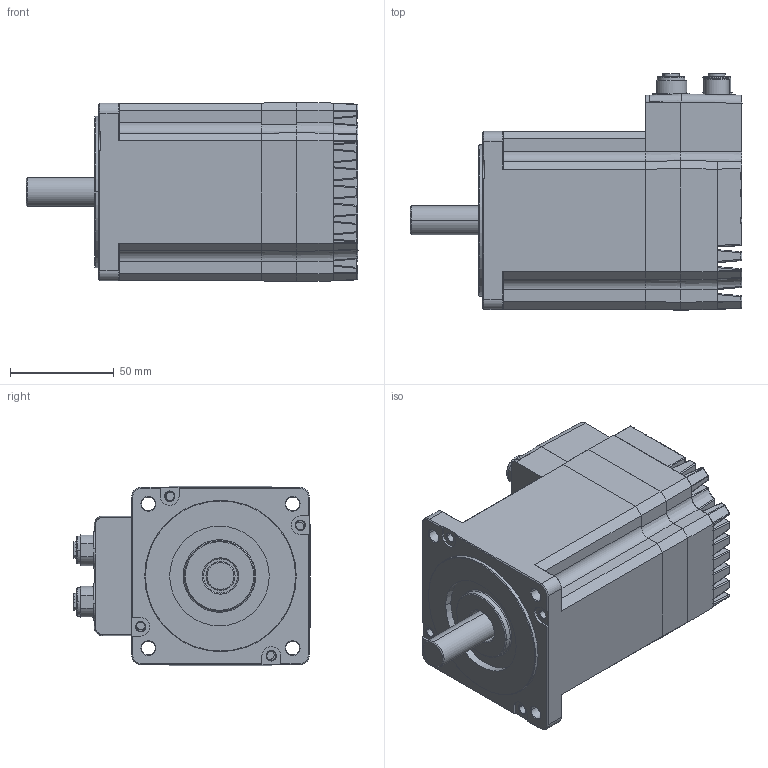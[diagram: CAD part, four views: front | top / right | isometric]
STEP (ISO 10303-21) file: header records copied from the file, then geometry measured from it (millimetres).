
FILE_DESCRIPTION((''),'2;1');
FILE_NAME('STEPPERASSY_ASM','2023-07-11T20:44:21',('KaviarasanNagaraj'),(''),'CREO PARAMETRIC BY PTC INC, 2021063','CREO PARAMETRIC BY PTC INC, 2021063','');
FILE_SCHEMA(('AUTOMOTIVE_DESIGN { 1 0 10303 214 1 1 1 1 }'));
Length unit declared in the file: millimetre
Products named in the file (10): M34_CON_R1; M34_CON_R2; MIS34_F_CONNECTOR; M34_S14; N34PIN1; N34PIN2; N34PIN3; N34PIN4; M34_ASM; STEPPERASSY_ASM
Assembly tree (9 placements, depth 3):
  STEPPERASSY_ASM
    M34_ASM
      M34_CON_R1
      M34_CON_R2
      MIS34_F_CONNECTOR
      M34_S14
      N34PIN1
      N34PIN2
      N34PIN3
      N34PIN4
Bounding box: 160.1 x 113.9 x 86.41 mm (x, y, z)
Volume: 853689.7 mm3; surface area: 119394.3 mm2
Topology: 8 solids, 9 shells, 1222 faces, 3262 edges, 2013 vertices
Faces by surface type: cylinder 492, plane 480, sphere 109, cone 93, bspline 36, extrusion 8, torus 4
Entity records: 54748 total; most frequent: CARTESIAN_POINT 10181, DIRECTION 6671, ORIENTED_EDGE 6292, PRESENTATION_STYLE_ASSIGNMENT 3384, STYLED_ITEM 3188, CURVE_STYLE 3180, EDGE_CURVE 3146, AXIS2_PLACEMENT_3D 2502
